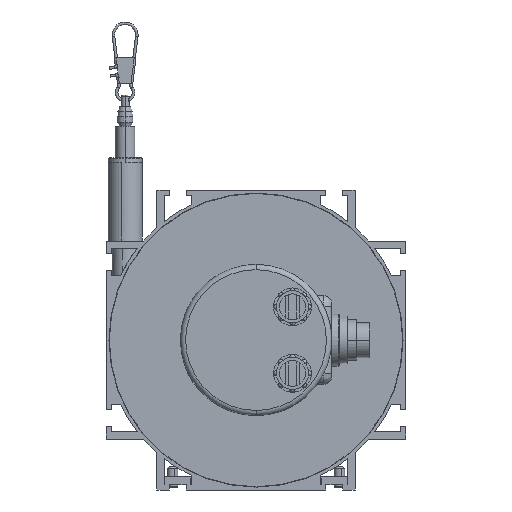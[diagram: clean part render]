
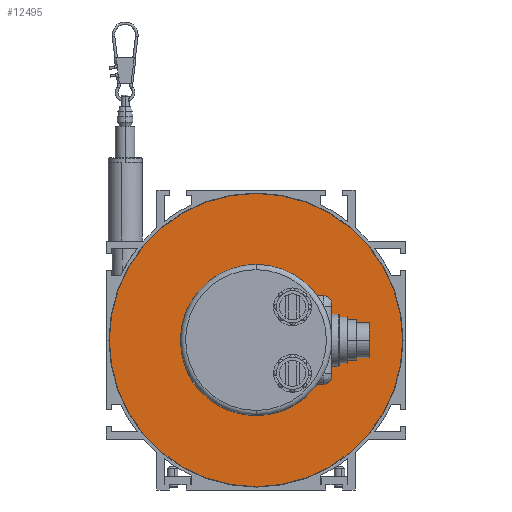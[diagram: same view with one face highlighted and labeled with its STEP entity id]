
A CAD part, left-side view. The second image highlights one B-rep face of the part: STEP entity #12495.
In plain terms, the highlighted planar face has unit normal (-1, 0, 0).
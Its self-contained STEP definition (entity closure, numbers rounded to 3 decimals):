
#2954=CARTESIAN_POINT('',(0.,0.,0.));
#2955=DIRECTION('',(1.,0.,0.));
#2956=DIRECTION('',(0.,1.,0.));
#2957=AXIS2_PLACEMENT_3D('',#2954,#2955,#2956);
#2959=CARTESIAN_POINT('',(0.,0.,0.));
#2960=DIRECTION('',(1.,0.,0.));
#2961=DIRECTION('',(0.,-1.,0.));
#2962=AXIS2_PLACEMENT_3D('',#2959,#2960,#2961);
#2964=CARTESIAN_POINT('',(0.,0.,0.));
#2965=DIRECTION('',(1.,0.,0.));
#2966=DIRECTION('',(0.,0.,1.));
#2967=AXIS2_PLACEMENT_3D('',#2964,#2965,#2966);
#2969=CARTESIAN_POINT('',(0.,0.,0.));
#2970=DIRECTION('',(1.,0.,0.));
#2971=DIRECTION('',(0.,0.,-1.));
#2972=AXIS2_PLACEMENT_3D('',#2969,#2970,#2971);
#6801=CARTESIAN_POINT('',(0.,56.25,0.));
#6802=CARTESIAN_POINT('',(0.,-56.25,0.));
#6803=VERTEX_POINT('',#6801);
#6804=VERTEX_POINT('',#6802);
#7903=CARTESIAN_POINT('',(0.,0.,29.));
#7904=CARTESIAN_POINT('',(0.,0.,-29.));
#7905=VERTEX_POINT('',#7903);
#7906=VERTEX_POINT('',#7904);
#12480=CARTESIAN_POINT('',(0.,0.,0.));
#12481=DIRECTION('',(-1.,0.,0.));
#12482=DIRECTION('',(0.,1.,0.));
#12483=AXIS2_PLACEMENT_3D('',#12480,#12481,#12482);
#12484=PLANE('',#12483);
#12485=ORIENTED_EDGE('',*,*,#12460,.T.);
#12486=ORIENTED_EDGE('',*,*,#12474,.T.);
#12487=EDGE_LOOP('',(#12485,#12486));
#12488=FACE_OUTER_BOUND('',#12487,.F.);
#12490=ORIENTED_EDGE('',*,*,#12489,.F.);
#12492=ORIENTED_EDGE('',*,*,#12491,.F.);
#12493=EDGE_LOOP('',(#12490,#12492));
#12494=FACE_BOUND('',#12493,.F.);
#12495=ADVANCED_FACE('',(#12488,#12494),#12484,.T.);
#2958=CIRCLE('',#2957,56.25);
#2963=CIRCLE('',#2962,56.25);
#2968=CIRCLE('',#2967,29.);
#2973=CIRCLE('',#2972,29.);
#12460=EDGE_CURVE('',#6803,#6804,#2958,.T.);
#12474=EDGE_CURVE('',#6804,#6803,#2963,.T.);
#12489=EDGE_CURVE('',#7905,#7906,#2968,.T.);
#12491=EDGE_CURVE('',#7906,#7905,#2973,.T.);
